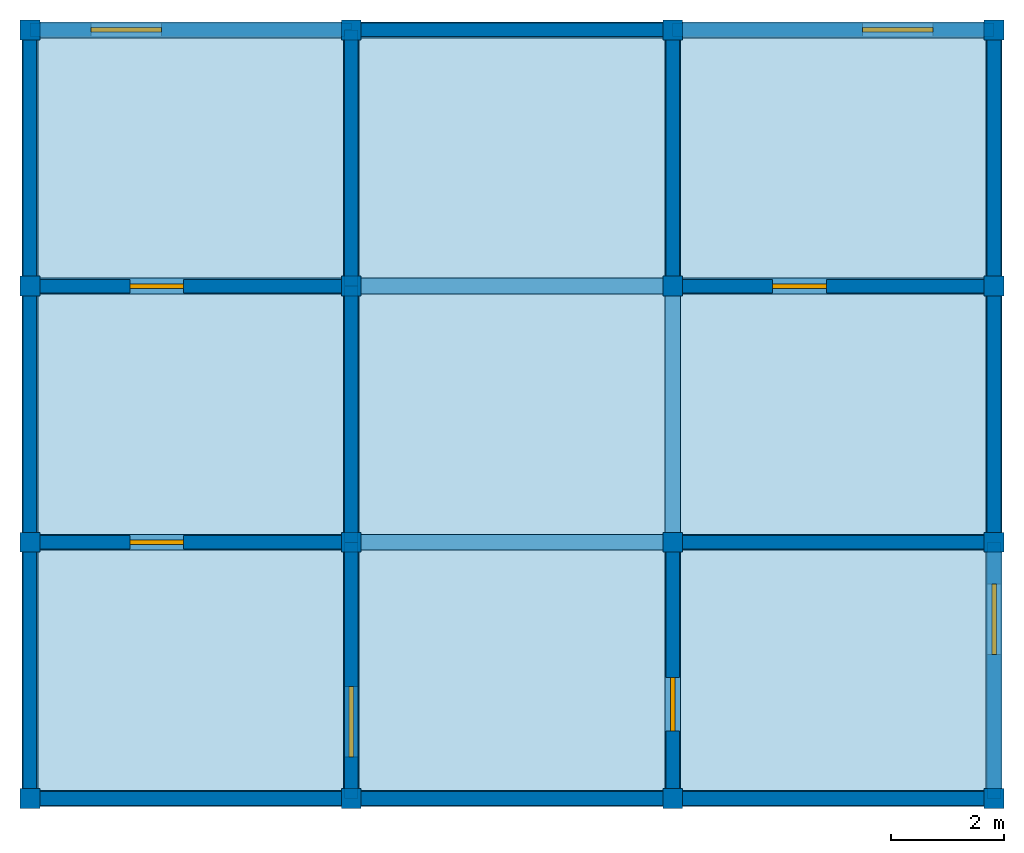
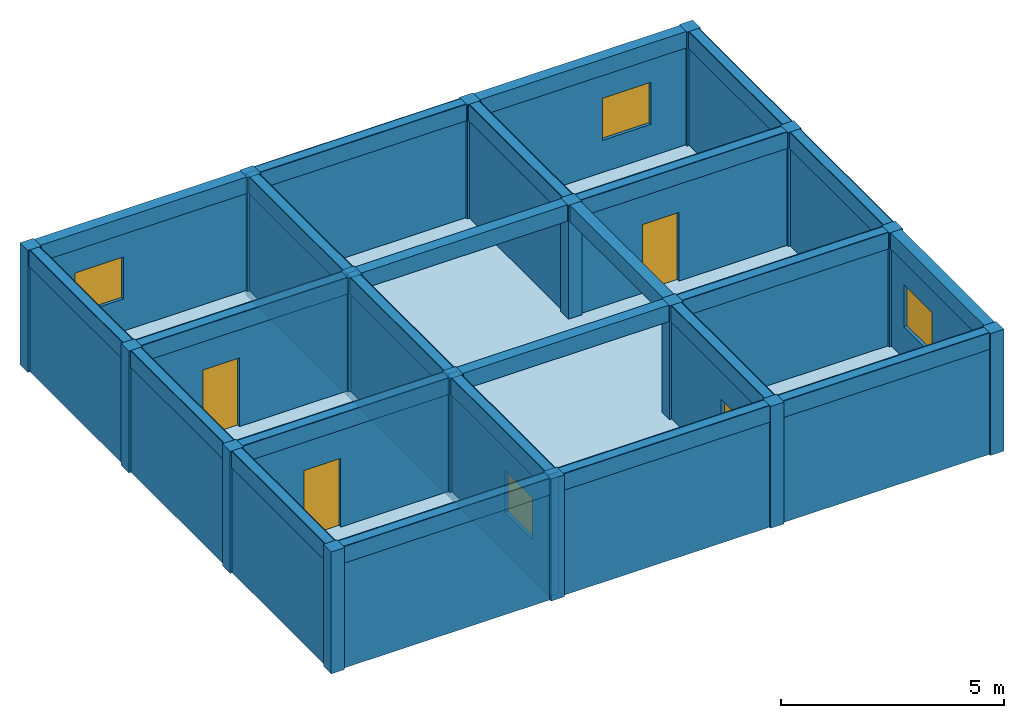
# One storey: 24 beams, 24 walls, 16 columns, 4 doors, 4 windows, 1 slab, 8 openings.
"""IFC4X3 building model written with IfcOpenShell, lengths in metres."""

import ifcopenshell
import ifcopenshell.guid

model = None  # the IFC model being written
_history = None  # IfcOwnerHistory: only IFC2X3 demands one
_inside = {}  # id of a spatial element -> (the spatial element, [elements in it])
_under = {}  # id of a project, library or spatial element -> (it, [spatial elements below it])
_declared = {}  # id of a project -> (the project, [libraries it declares])
_typed = {}  # id of a type object -> (the type object, [elements of that type])
_made_of = {}  # id of a material, layer set ... -> (it, [elements and type objects made of it])


def new_model(schema):
    """Start an empty IFC model of exactly this schema.

    Asked for "IFC4X3", IfcOpenShell would pick the latest addendum, in which some entities
    have other attributes; the version numbers below select the first issue.
    IFC2X3 requires an IfcOwnerHistory on every rooted entity: one is made here for all.
    """
    global model, _history
    if schema == "IFC4X3":
        model = ifcopenshell.file(schema_version=(4, 3, 0, 0))
    else:
        model = ifcopenshell.file(schema=schema)
    _inside.clear()
    _under.clear()
    _declared.clear()
    _typed.clear()
    _made_of.clear()
    _history = None
    if model.schema == "IFC2X3":
        org = make("IfcOrganization", Name="unknown")
        user = make(
            "IfcPersonAndOrganization",
            ThePerson=make("IfcPerson", FamilyName="unknown"),
            TheOrganization=org,
        )
        app = make(
            "IfcApplication",
            ApplicationDeveloper=org,
            Version="unknown",
            ApplicationFullName="unknown",
            ApplicationIdentifier="unknown",
        )
        _history = make(
            "IfcOwnerHistory",
            OwningUser=user,
            OwningApplication=app,
            ChangeAction="ADDED",
            CreationDate=0,
        )
    return model


def make(cls, **values):
    """One entity of the class cls with the attributes given. An attribute that is None is left unset."""
    return model.create_entity(
        cls, **{name: value for name, value in values.items() if value is not None}
    )


def rooted(cls, **values):
    """An entity with a GlobalId (a new one), such as an element, a storey or a relation."""
    return make(cls, GlobalId=ifcopenshell.guid.new(), OwnerHistory=_history, **values)


def si_unit(unit_type, name, prefix=None):
    """IfcSIUnit, for example si_unit("LENGTHUNIT", "METRE", prefix="MILLI")."""
    return make("IfcSIUnit", UnitType=unit_type, Prefix=prefix, Name=name)


def assignment(units):
    """IfcUnitAssignment: the units of a project."""
    return None if units is None else make("IfcUnitAssignment", Units=units)


def point(xyz):
    """IfcCartesianPoint."""
    return None if xyz is None else make("IfcCartesianPoint", Coordinates=xyz)


def direction(xyz):
    """IfcDirection."""
    return None if xyz is None else make("IfcDirection", DirectionRatios=xyz)


def frame(location, z_axis=None, x_axis=None):
    """IfcAxis2Placement3D, a coordinate frame: its origin and axes. An axis left out is left unset."""
    return make(
        "IfcAxis2Placement3D",
        Location=point(location),
        Axis=direction(z_axis),
        RefDirection=direction(x_axis),
    )


def frame_2d(location, x_axis=None):
    """IfcAxis2Placement2D, a coordinate frame in the plane: its origin and x axis."""
    return make(
        "IfcAxis2Placement2D", Location=point(location), RefDirection=direction(x_axis)
    )


def origin_with_axes():
    """The frame at (0, 0, 0) with the z axis (0, 0, 1) and the x axis (1, 0, 0) written out."""
    return frame((0.0, 0.0, 0.0), z_axis=(0.0, 0.0, 1.0), x_axis=(1.0, 0.0, 0.0))


def origin_2d():
    """The frame at (0, 0) in the plane with its x axis left unset."""
    return frame_2d((0.0, 0.0))


def place(relative_to, where):
    """IfcLocalPlacement: puts the frame where relative to a parent placement (None: the world)."""
    return make(
        "IfcLocalPlacement", PlacementRelTo=relative_to, RelativePlacement=where
    )


def context(
    kind, dimensions, precision=None, world=None, true_north=None, identifier=None
):
    """IfcGeometricRepresentationContext, for example the 3D "Model" context."""
    return make(
        "IfcGeometricRepresentationContext",
        ContextIdentifier=identifier,
        ContextType=kind,
        CoordinateSpaceDimension=dimensions,
        Precision=precision,
        WorldCoordinateSystem=world,
        TrueNorth=true_north,
    )


def project(units=None, contexts=None):
    """IfcProject with its units and contexts."""
    return rooted(
        "IfcProject",
        Name="project",
        RepresentationContexts=contexts,
        UnitsInContext=assignment(units),
    )


def spatial(cls, under=None, at=None, **own):
    """A site, building, storey or space (cls), placed at a placement, below another one or the project."""
    s = rooted(cls, ObjectPlacement=at, **own)
    if under is not None:
        _under.setdefault(under.id(), (under, []))[1].append(s)
    return s


def profile(cls, at=None, kind="AREA", **sizes):
    """A parametric profile (cls). Its sizes go by their IFC names, for example OverallWidth=200.0."""
    return make(cls, ProfileType=kind, Position=at, **sizes)


def rectangle(**sizes):
    """IfcRectangleProfileDef."""
    return profile("IfcRectangleProfileDef", **sizes)


def extrude(swept, where, along, depth):
    """IfcExtrudedAreaSolid: the profile swept, set in the frame where, extruded along a direction by depth."""
    return make(
        "IfcExtrudedAreaSolid",
        SweptArea=swept,
        Position=where,
        ExtrudedDirection=direction(along),
        Depth=depth,
    )


def shape(context_of_items, identifier, shape_type, items):
    """IfcShapeRepresentation: the items that make up one representation, for example the "Body"."""
    return make(
        "IfcShapeRepresentation",
        ContextOfItems=context_of_items,
        RepresentationIdentifier=identifier,
        RepresentationType=shape_type,
        Items=items,
    )


def material(Name=None, Category=None):
    """IfcMaterial."""
    return make("IfcMaterial", Name=Name, Category=Category)


def made_of(thing, what):
    """Note that an element or type object is made of a material, layer set ...; save() writes the relation."""
    if what is not None:
        _made_of.setdefault(what.id(), (what, []))[1].append(thing)
    return thing


def element(
    cls,
    number,
    at=None,
    inside=None,
    cuts=None,
    type_object=None,
    material=None,
    context=None,
    identifier="Body",
    shape_type=None,
    held_by="IfcProductDefinitionShape",
    body=None,
    shapes=None,
    **own,
):
    """One element of the class cls, such as IfcWall. Its Tag is "e" and its number.

    at: its placement. inside: the storey or other place that contains it. cuts: it is an
    opening in that element (IfcRelVoidsElement). A single representation is given by context,
    identifier, shape_type and body (its items); several are given by shapes. held_by: the class
    of the entity that holds the representations. save() writes the other relations.
    """
    e = rooted(cls, Tag="e%d" % number, ObjectPlacement=at, **own)
    if body is not None:
        shapes = [shape(context, identifier, shape_type, body)]
    if shapes is not None:
        e.Representation = make(held_by, Representations=shapes)
    if inside is not None:
        _inside.setdefault(inside.id(), (inside, []))[1].append(e)
    if cuts is not None:
        rooted(
            "IfcRelVoidsElement", RelatingBuildingElement=cuts, RelatedOpeningElement=e
        )
    if type_object is not None:
        _typed.setdefault(type_object.id(), (type_object, []))[1].append(e)
    return made_of(e, material)


def fill(opening, filler):
    """IfcRelFillsElement: the door or window that sits in an opening."""
    return rooted(
        "IfcRelFillsElement",
        RelatingOpeningElement=opening,
        RelatedBuildingElement=filler,
    )


def aggregate(whole, parts):
    """IfcRelAggregates: a whole, such as a stair, and the parts it consists of."""
    return rooted("IfcRelAggregates", RelatingObject=whole, RelatedObjects=parts)


def save(model, path):
    """Write the relations noted so far, then the file.

    IfcRelAggregates (storeys below a building ...), IfcRelContainedInSpatialStructure (elements
    in a storey), IfcRelDefinesByType, IfcRelAssociatesMaterial and IfcRelDeclares: one each for
    every whole, place, type object, material and project.
    """
    for whole, parts in _under.values():
        aggregate(whole, parts)
    for where, things in _inside.values():
        rooted(
            "IfcRelContainedInSpatialStructure",
            RelatedElements=things,
            RelatingStructure=where,
        )
    for kind, things in _typed.values():
        rooted("IfcRelDefinesByType", RelatedObjects=things, RelatingType=kind)
    for what, things in _made_of.values():
        rooted("IfcRelAssociatesMaterial", RelatedObjects=things, RelatingMaterial=what)
    for by, libraries in _declared.values():
        rooted("IfcRelDeclares", RelatingContext=by, RelatedDefinitions=libraries)
    model.write(path)


model = new_model("IFC4X3")

# Units and contexts
model_context = context("Model", 3, precision=1e-05, world=origin_with_axes())
ifc_project = project(units=[si_unit("LENGTHUNIT", "METRE"), si_unit("AREAUNIT", "SQUARE_METRE"), si_unit("VOLUMEUNIT", "CUBIC_METRE")], contexts=[model_context])

# Site, building, storey
site = spatial("IfcSite", under=ifc_project, Name="Valdivia Parcel", CompositionType="ELEMENT")
building = spatial("IfcBuilding", under=site, Name="Strata Block", CompositionType="ELEMENT")
storey = spatial("IfcBuildingStorey", under=building, Name="Level 6", CompositionType="ELEMENT", Elevation=16.68)

# Columns
ifc_material_1 = material(Name="Concrete")
for number, where, z_axis, x_axis, name in (
    (1, (-8.525, -6.795, 16.677), (0.0, 0.0, 1.0), (1.0, 0.0, 0.0), "Column 6.1"),
    (2, (-8.525, -2.265, 16.677), (0.0, 0.0, 1.0), (1.0, 0.0, 0.0), "Column 6.2"),
):
    element("IfcColumn", number, at=place(None, frame(where, z_axis=z_axis, x_axis=x_axis)), inside=storey, material=ifc_material_1, Name=name, ObjectType="Structural Column", PredefinedType="PILASTER", context=model_context, shape_type="SweptSolid", body=[
        extrude(rectangle(XDim=0.35, YDim=0.35, at=origin_2d()), origin_with_axes(), (0.0, 0.0, 1.0), 3.335),
    ])
column_1_placement = place(None, frame((-8.525, 2.265, 16.677), z_axis=(0.0, 0.0, 1.0), x_axis=(1.0, 0.0, 0.0)))
element("IfcColumn", 3, at=column_1_placement, inside=storey, material=ifc_material_1, Name="Column 6.3", ObjectType="Corner Column", PredefinedType="NOTDEFINED", context=model_context, shape_type="SweptSolid", body=[
    extrude(rectangle(XDim=0.35, YDim=0.35, at=origin_2d()), origin_with_axes(), (0.0, 0.0, 1.0), 3.335),
])
column_2_placement = place(None, frame((-8.525, 6.795, 16.677), z_axis=(0.0, 0.0, 1.0), x_axis=(1.0, 0.0, 0.0)))
element("IfcColumn", 4, at=column_2_placement, inside=storey, material=ifc_material_1, Name="Column 6.4", ObjectType="Core Column", PredefinedType="COLUMN", context=model_context, shape_type="SweptSolid", body=[
    extrude(rectangle(XDim=0.35, YDim=0.35, at=origin_2d()), origin_with_axes(), (0.0, 0.0, 1.0), 3.335),
])
column_3_placement = place(None, frame((-2.842, -6.795, 16.677), z_axis=(0.0, 0.0, 1.0), x_axis=(1.0, 0.0, 0.0)))
element("IfcColumn", 5, at=column_3_placement, inside=storey, material=ifc_material_1, Name="Column 6.5", ObjectType="Facade Column", PredefinedType="PILASTER", context=model_context, shape_type="SweptSolid", body=[
    extrude(rectangle(XDim=0.35, YDim=0.35, at=origin_2d()), origin_with_axes(), (0.0, 0.0, 1.0), 3.335),
])
column_4_placement = place(None, frame((-2.842, -2.265, 16.677), z_axis=(0.0, 0.0, 1.0), x_axis=(1.0, 0.0, 0.0)))
element("IfcColumn", 6, at=column_4_placement, inside=storey, material=ifc_material_1, Name="Column 6.6", ObjectType="Structural Column", PredefinedType="PILASTER", context=model_context, shape_type="SweptSolid", body=[
    extrude(rectangle(XDim=0.35, YDim=0.35, at=origin_2d()), origin_with_axes(), (0.0, 0.0, 1.0), 3.335),
])
column_5_placement = place(None, frame((-2.842, 2.265, 16.677), z_axis=(0.0, 0.0, 1.0), x_axis=(1.0, 0.0, 0.0)))
element("IfcColumn", 7, at=column_5_placement, inside=storey, material=ifc_material_1, Name="Column 6.7", ObjectType="Facade Column", PredefinedType="NOTDEFINED", context=model_context, shape_type="SweptSolid", body=[
    extrude(rectangle(XDim=0.35, YDim=0.35, at=origin_2d()), origin_with_axes(), (0.0, 0.0, 1.0), 3.335),
])
column_6_placement = place(None, frame((-2.842, 6.795, 16.677), z_axis=(0.0, 0.0, 1.0), x_axis=(1.0, 0.0, 0.0)))
element("IfcColumn", 8, at=column_6_placement, inside=storey, material=ifc_material_1, Name="Column 6.8", ObjectType="Core Column", PredefinedType="PILASTER", context=model_context, shape_type="SweptSolid", body=[
    extrude(rectangle(XDim=0.35, YDim=0.35, at=origin_2d()), origin_with_axes(), (0.0, 0.0, 1.0), 3.335),
])
column_7_placement = place(None, frame((2.841, -6.795, 16.677), z_axis=(0.0, 0.0, 1.0), x_axis=(1.0, 0.0, 0.0)))
element("IfcColumn", 9, at=column_7_placement, inside=storey, material=ifc_material_1, Name="Column 6.9", ObjectType="Structural Column", PredefinedType="PILASTER", context=model_context, shape_type="SweptSolid", body=[
    extrude(rectangle(XDim=0.35, YDim=0.35, at=origin_2d()), origin_with_axes(), (0.0, 0.0, 1.0), 3.335),
])
column_8_placement = place(None, frame((2.841, -2.265, 16.677), z_axis=(0.0, 0.0, 1.0), x_axis=(1.0, 0.0, 0.0)))
element("IfcColumn", 10, at=column_8_placement, inside=storey, material=ifc_material_1, Name="Column 6.10", ObjectType="Structural Column", PredefinedType="NOTDEFINED", context=model_context, shape_type="SweptSolid", body=[
    extrude(rectangle(XDim=0.35, YDim=0.35, at=origin_2d()), origin_with_axes(), (0.0, 0.0, 1.0), 3.335),
])
column_9_placement = place(None, frame((2.841, 2.265, 16.677), z_axis=(0.0, 0.0, 1.0), x_axis=(1.0, 0.0, 0.0)))
element("IfcColumn", 11, at=column_9_placement, inside=storey, material=ifc_material_1, Name="Column 6.11", ObjectType="Core Column", PredefinedType="PILASTER", context=model_context, shape_type="SweptSolid", body=[
    extrude(rectangle(XDim=0.35, YDim=0.35, at=origin_2d()), origin_with_axes(), (0.0, 0.0, 1.0), 3.335),
])
column_10_placement = place(None, frame((2.841, 6.795, 16.677), z_axis=(0.0, 0.0, 1.0), x_axis=(1.0, 0.0, 0.0)))
element("IfcColumn", 12, at=column_10_placement, inside=storey, material=ifc_material_1, Name="Column 6.12", ObjectType="Structural Column", PredefinedType="USERDEFINED", context=model_context, shape_type="SweptSolid", body=[
    extrude(rectangle(XDim=0.35, YDim=0.35, at=origin_2d()), origin_with_axes(), (0.0, 0.0, 1.0), 3.335),
])
column_11_placement = place(None, frame((8.524, -6.795, 16.677), z_axis=(0.0, 0.0, 1.0), x_axis=(1.0, 0.0, 0.0)))
element("IfcColumn", 13, at=column_11_placement, inside=storey, material=ifc_material_1, Name="Column 6.13", ObjectType="Core Column", PredefinedType="PILASTER", context=model_context, shape_type="SweptSolid", body=[
    extrude(rectangle(XDim=0.35, YDim=0.35, at=origin_2d()), origin_with_axes(), (0.0, 0.0, 1.0), 3.335),
])
column_12_placement = place(None, frame((8.524, -2.265, 16.677), z_axis=(0.0, 0.0, 1.0), x_axis=(1.0, 0.0, 0.0)))
element("IfcColumn", 14, at=column_12_placement, inside=storey, material=ifc_material_1, Name="Column 6.14", ObjectType="Corner Column", PredefinedType="USERDEFINED", context=model_context, shape_type="SweptSolid", body=[
    extrude(rectangle(XDim=0.35, YDim=0.35, at=origin_2d()), origin_with_axes(), (0.0, 0.0, 1.0), 3.335),
])
column_13_placement = place(None, frame((8.524, 2.265, 16.677), z_axis=(0.0, 0.0, 1.0), x_axis=(1.0, 0.0, 0.0)))
element("IfcColumn", 15, at=column_13_placement, inside=storey, material=ifc_material_1, Name="Column 6.15", ObjectType="Facade Column", PredefinedType="PILASTER", context=model_context, shape_type="SweptSolid", body=[
    extrude(rectangle(XDim=0.35, YDim=0.35, at=origin_2d()), origin_with_axes(), (0.0, 0.0, 1.0), 3.335),
])
column_14_placement = place(None, frame((8.524, 6.795, 16.677), z_axis=(0.0, 0.0, 1.0), x_axis=(1.0, 0.0, 0.0)))
element("IfcColumn", 16, at=column_14_placement, inside=storey, material=ifc_material_1, Name="Column 6.16", ObjectType="Structural Column", PredefinedType="PILASTER", context=model_context, shape_type="SweptSolid", body=[
    extrude(rectangle(XDim=0.35, YDim=0.35, at=origin_2d()), origin_with_axes(), (0.0, 0.0, 1.0), 3.335),
])

# Beams
ifc_material_2 = material(Name="Timber")
beam_1_placement = place(None, frame((-5.684, -6.795, 19.562), z_axis=(0.0, 0.0, 1.0), x_axis=(1.0, 0.0, 0.0)))
element("IfcBeam", 17, at=beam_1_placement, inside=storey, material=ifc_material_2, Name="Beam 6.1", ObjectType="Secondary Beam", PredefinedType="JOIST", context=model_context, shape_type="SweptSolid", body=[
    extrude(rectangle(XDim=5.683, YDim=0.28, at=origin_2d()), origin_with_axes(), (0.0, 0.0, 1.0), 0.45),
])
beam_2_placement = place(None, frame((0.0, -6.795, 19.562), z_axis=(0.0, 0.0, 1.0), x_axis=(1.0, 0.0, 0.0)))
element("IfcBeam", 18, at=beam_2_placement, inside=storey, material=ifc_material_2, Name="Beam 6.2", ObjectType="Rafter Beam", PredefinedType="T_BEAM", context=model_context, shape_type="SweptSolid", body=[
    extrude(rectangle(XDim=5.683, YDim=0.28, at=origin_2d()), origin_with_axes(), (0.0, 0.0, 1.0), 0.45),
])
beam_3_placement = place(None, frame((5.682, -6.795, 19.562), z_axis=(0.0, 0.0, 1.0), x_axis=(1.0, 0.0, 0.0)))
element("IfcBeam", 19, at=beam_3_placement, inside=storey, material=ifc_material_2, Name="Beam 6.3", ObjectType="Primary Beam", PredefinedType="T_BEAM", context=model_context, shape_type="SweptSolid", body=[
    extrude(rectangle(XDim=5.683, YDim=0.28, at=origin_2d()), origin_with_axes(), (0.0, 0.0, 1.0), 0.45),
])
beam_4_placement = place(None, frame((-5.684, -2.265, 19.562), z_axis=(0.0, 0.0, 1.0), x_axis=(1.0, 0.0, 0.0)))
element("IfcBeam", 20, at=beam_4_placement, inside=storey, material=ifc_material_2, Name="Beam 6.4", ObjectType="Ridge Beam", PredefinedType="T_BEAM", context=model_context, shape_type="SweptSolid", body=[
    extrude(rectangle(XDim=5.683, YDim=0.28, at=origin_2d()), origin_with_axes(), (0.0, 0.0, 1.0), 0.45),
])
beam_5_placement = place(None, frame((0.0, -2.265, 19.562), z_axis=(0.0, 0.0, 1.0), x_axis=(1.0, 0.0, 0.0)))
element("IfcBeam", 21, at=beam_5_placement, inside=storey, material=ifc_material_2, Name="Beam 6.5", ObjectType="Secondary Beam", PredefinedType="BEAM", context=model_context, shape_type="SweptSolid", body=[
    extrude(rectangle(XDim=5.683, YDim=0.28, at=origin_2d()), origin_with_axes(), (0.0, 0.0, 1.0), 0.45),
])
beam_6_placement = place(None, frame((5.682, -2.265, 19.562), z_axis=(0.0, 0.0, 1.0), x_axis=(1.0, 0.0, 0.0)))
element("IfcBeam", 22, at=beam_6_placement, inside=storey, material=ifc_material_2, Name="Beam 6.6", ObjectType="Ridge Beam", PredefinedType="T_BEAM", context=model_context, shape_type="SweptSolid", body=[
    extrude(rectangle(XDim=5.683, YDim=0.28, at=origin_2d()), origin_with_axes(), (0.0, 0.0, 1.0), 0.45),
])
beam_7_placement = place(None, frame((-5.684, 2.265, 19.562), z_axis=(0.0, 0.0, 1.0), x_axis=(1.0, 0.0, 0.0)))
element("IfcBeam", 23, at=beam_7_placement, inside=storey, material=ifc_material_2, Name="Beam 6.7", ObjectType="Secondary Beam", PredefinedType="HOLLOWCORE", context=model_context, shape_type="SweptSolid", body=[
    extrude(rectangle(XDim=5.683, YDim=0.28, at=origin_2d()), origin_with_axes(), (0.0, 0.0, 1.0), 0.45),
])
beam_8_placement = place(None, frame((0.0, 2.265, 19.562), z_axis=(0.0, 0.0, 1.0), x_axis=(1.0, 0.0, 0.0)))
element("IfcBeam", 24, at=beam_8_placement, inside=storey, material=ifc_material_2, Name="Beam 6.8", ObjectType="Ridge Beam", PredefinedType="HOLLOWCORE", context=model_context, shape_type="SweptSolid", body=[
    extrude(rectangle(XDim=5.683, YDim=0.28, at=origin_2d()), origin_with_axes(), (0.0, 0.0, 1.0), 0.45),
])
beam_9_placement = place(None, frame((5.682, 2.265, 19.562), z_axis=(0.0, 0.0, 1.0), x_axis=(1.0, 0.0, 0.0)))
element("IfcBeam", 25, at=beam_9_placement, inside=storey, material=ifc_material_2, Name="Beam 6.9", ObjectType="Secondary Beam", PredefinedType="USERDEFINED", context=model_context, shape_type="SweptSolid", body=[
    extrude(rectangle(XDim=5.683, YDim=0.28, at=origin_2d()), origin_with_axes(), (0.0, 0.0, 1.0), 0.45),
])
beam_10_placement = place(None, frame((-5.684, 6.795, 19.562), z_axis=(0.0, 0.0, 1.0), x_axis=(1.0, 0.0, 0.0)))
element("IfcBeam", 26, at=beam_10_placement, inside=storey, material=ifc_material_2, Name="Beam 6.10", ObjectType="Primary Beam", PredefinedType="NOTDEFINED", context=model_context, shape_type="SweptSolid", body=[
    extrude(rectangle(XDim=5.683, YDim=0.28, at=origin_2d()), origin_with_axes(), (0.0, 0.0, 1.0), 0.45),
])
beam_11_placement = place(None, frame((0.0, 6.795, 19.562), z_axis=(0.0, 0.0, 1.0), x_axis=(1.0, 0.0, 0.0)))
element("IfcBeam", 27, at=beam_11_placement, inside=storey, material=ifc_material_2, Name="Beam 6.11", ObjectType="Transfer Beam", PredefinedType="USERDEFINED", context=model_context, shape_type="SweptSolid", body=[
    extrude(rectangle(XDim=5.683, YDim=0.28, at=origin_2d()), origin_with_axes(), (0.0, 0.0, 1.0), 0.45),
])
beam_12_placement = place(None, frame((5.682, 6.795, 19.562), z_axis=(0.0, 0.0, 1.0), x_axis=(1.0, 0.0, 0.0)))
element("IfcBeam", 28, at=beam_12_placement, inside=storey, material=ifc_material_2, Name="Beam 6.12", ObjectType="Rafter Beam", PredefinedType="SPANDREL", context=model_context, shape_type="SweptSolid", body=[
    extrude(rectangle(XDim=5.683, YDim=0.28, at=origin_2d()), origin_with_axes(), (0.0, 0.0, 1.0), 0.45),
])
beam_13_placement = place(None, frame((-8.525, -4.53, 19.562), z_axis=(0.0, 0.0, 1.0), x_axis=(0.0, 1.0, 0.0)))
element("IfcBeam", 29, at=beam_13_placement, inside=storey, material=ifc_material_2, Name="Beam 6.13", ObjectType="Secondary Beam", PredefinedType="JOIST", context=model_context, shape_type="SweptSolid", body=[
    extrude(rectangle(XDim=4.53, YDim=0.28, at=origin_2d()), origin_with_axes(), (0.0, 0.0, 1.0), 0.45),
])
beam_14_placement = place(None, frame((-8.525, 0.0, 19.562), z_axis=(0.0, 0.0, 1.0), x_axis=(0.0, 1.0, 0.0)))
element("IfcBeam", 30, at=beam_14_placement, inside=storey, material=ifc_material_2, Name="Beam 6.14", ObjectType="Secondary Beam", PredefinedType="SPANDREL", context=model_context, shape_type="SweptSolid", body=[
    extrude(rectangle(XDim=4.53, YDim=0.28, at=origin_2d()), origin_with_axes(), (0.0, 0.0, 1.0), 0.45),
])
beam_15_placement = place(None, frame((-8.525, 4.53, 19.562), z_axis=(0.0, 0.0, 1.0), x_axis=(0.0, 1.0, 0.0)))
element("IfcBeam", 31, at=beam_15_placement, inside=storey, material=ifc_material_2, Name="Beam 6.15", ObjectType="Primary Beam", PredefinedType="JOIST", context=model_context, shape_type="SweptSolid", body=[
    extrude(rectangle(XDim=4.53, YDim=0.28, at=origin_2d()), origin_with_axes(), (0.0, 0.0, 1.0), 0.45),
])
beam_16_placement = place(None, frame((-2.842, -4.53, 19.562), z_axis=(0.0, 0.0, 1.0), x_axis=(0.0, 1.0, 0.0)))
element("IfcBeam", 32, at=beam_16_placement, inside=storey, material=ifc_material_2, Name="Beam 6.16", ObjectType="Transfer Beam", PredefinedType="HOLLOWCORE", context=model_context, shape_type="SweptSolid", body=[
    extrude(rectangle(XDim=4.53, YDim=0.28, at=origin_2d()), origin_with_axes(), (0.0, 0.0, 1.0), 0.45),
])
beam_17_placement = place(None, frame((-2.842, 0.0, 19.562), z_axis=(0.0, 0.0, 1.0), x_axis=(0.0, 1.0, 0.0)))
element("IfcBeam", 33, at=beam_17_placement, inside=storey, material=ifc_material_2, Name="Beam 6.17", ObjectType="Primary Beam", PredefinedType="BEAM", context=model_context, shape_type="SweptSolid", body=[
    extrude(rectangle(XDim=4.53, YDim=0.28, at=origin_2d()), origin_with_axes(), (0.0, 0.0, 1.0), 0.45),
])
beam_18_placement = place(None, frame((-2.842, 4.53, 19.562), z_axis=(0.0, 0.0, 1.0), x_axis=(0.0, 1.0, 0.0)))
element("IfcBeam", 34, at=beam_18_placement, inside=storey, material=ifc_material_2, Name="Beam 6.18", ObjectType="Secondary Beam", PredefinedType="LINTEL", context=model_context, shape_type="SweptSolid", body=[
    extrude(rectangle(XDim=4.53, YDim=0.28, at=origin_2d()), origin_with_axes(), (0.0, 0.0, 1.0), 0.45),
])
beam_19_placement = place(None, frame((2.841, -4.53, 19.562), z_axis=(0.0, 0.0, 1.0), x_axis=(0.0, 1.0, 0.0)))
element("IfcBeam", 35, at=beam_19_placement, inside=storey, material=ifc_material_2, Name="Beam 6.19", ObjectType="Secondary Beam", PredefinedType="SPANDREL", context=model_context, shape_type="SweptSolid", body=[
    extrude(rectangle(XDim=4.53, YDim=0.28, at=origin_2d()), origin_with_axes(), (0.0, 0.0, 1.0), 0.45),
])
beam_20_placement = place(None, frame((2.841, 0.0, 19.562), z_axis=(0.0, 0.0, 1.0), x_axis=(0.0, 1.0, 0.0)))
element("IfcBeam", 36, at=beam_20_placement, inside=storey, material=ifc_material_2, Name="Beam 6.20", ObjectType="Transfer Beam", PredefinedType="JOIST", context=model_context, shape_type="SweptSolid", body=[
    extrude(rectangle(XDim=4.53, YDim=0.28, at=origin_2d()), origin_with_axes(), (0.0, 0.0, 1.0), 0.45),
])
beam_21_placement = place(None, frame((2.841, 4.53, 19.562), z_axis=(0.0, 0.0, 1.0), x_axis=(0.0, 1.0, 0.0)))
element("IfcBeam", 37, at=beam_21_placement, inside=storey, material=ifc_material_2, Name="Beam 6.21", ObjectType="Ridge Beam", PredefinedType="HOLLOWCORE", context=model_context, shape_type="SweptSolid", body=[
    extrude(rectangle(XDim=4.53, YDim=0.28, at=origin_2d()), origin_with_axes(), (0.0, 0.0, 1.0), 0.45),
])
beam_22_placement = place(None, frame((8.524, -4.53, 19.562), z_axis=(0.0, 0.0, 1.0), x_axis=(0.0, 1.0, 0.0)))
element("IfcBeam", 38, at=beam_22_placement, inside=storey, material=ifc_material_2, Name="Beam 6.22", ObjectType="Primary Beam", PredefinedType="HOLLOWCORE", context=model_context, shape_type="SweptSolid", body=[
    extrude(rectangle(XDim=4.53, YDim=0.28, at=origin_2d()), origin_with_axes(), (0.0, 0.0, 1.0), 0.45),
])
beam_23_placement = place(None, frame((8.524, 0.0, 19.562), z_axis=(0.0, 0.0, 1.0), x_axis=(0.0, 1.0, 0.0)))
element("IfcBeam", 39, at=beam_23_placement, inside=storey, material=ifc_material_2, Name="Beam 6.23", ObjectType="Secondary Beam", PredefinedType="SPANDREL", context=model_context, shape_type="SweptSolid", body=[
    extrude(rectangle(XDim=4.53, YDim=0.28, at=origin_2d()), origin_with_axes(), (0.0, 0.0, 1.0), 0.45),
])
beam_24_placement = place(None, frame((8.524, 4.53, 19.562), z_axis=(0.0, 0.0, 1.0), x_axis=(0.0, 1.0, 0.0)))
element("IfcBeam", 40, at=beam_24_placement, inside=storey, material=ifc_material_2, Name="Beam 6.24", ObjectType="Primary Beam", PredefinedType="NOTDEFINED", context=model_context, shape_type="SweptSolid", body=[
    extrude(rectangle(XDim=4.53, YDim=0.28, at=origin_2d()), origin_with_axes(), (0.0, 0.0, 1.0), 0.45),
])

# Slab
ifc_material_3 = material(Name="Composite")
slab_placement = place(None, frame((0.0, 0.0, 16.68), z_axis=(0.0, 0.0, 1.0), x_axis=(1.0, 0.0, 0.0)))
element("IfcSlab", 41, at=slab_placement, inside=storey, material=ifc_material_3, Name="Slab 6", ObjectType="Floor Slab", PredefinedType="FLOOR", context=model_context, shape_type="SweptSolid", body=[
    extrude(rectangle(XDim=17.05, YDim=13.59, at=origin_2d()), origin_with_axes(), (0.0, 0.0, 1.0), 0.22),
])

# Wall, opening, door
wall_1_placement = place(None, frame((-5.684, -2.265, 16.677), z_axis=(0.0, 0.0, 1.0), x_axis=(1.0, 0.0, 0.0)))
wall_1 = element("IfcWall", 42, at=wall_1_placement, inside=storey, material=ifc_material_1, Name="Wall 6.1", ObjectType="Corridor Partition", PredefinedType="MOVABLE", context=model_context, shape_type="SweptSolid", body=[
    extrude(rectangle(XDim=5.683, YDim=0.241539, at=origin_2d()), origin_with_axes(), (0.0, 0.0, 1.0), 3.335),
])
opening_1_placement = place(None, frame((-6.284, -2.265, 16.677), z_axis=(0.0, 0.0, 1.0), x_axis=(1.0, 0.0, 0.0)))
opening_1 = element("IfcOpeningElement", 43, at=opening_1_placement, cuts=wall_1, Name="Door opening 6.1", ObjectType="Door Opening", PredefinedType="OPENING", context=model_context, shape_type="SweptSolid", body=[
    extrude(rectangle(XDim=0.95, YDim=0.321539, at=origin_2d()), origin_with_axes(), (0.0, 0.0, 1.0), 2.1),
])
door_1_placement = place(None, frame((-6.284, -2.265, 16.677), z_axis=(0.0, 0.0, 1.0), x_axis=(1.0, 0.0, 0.0)))
door_1 = element("IfcDoor", 44, at=door_1_placement, inside=storey, Name="Door 6.1", ObjectType="Fire Door", OverallHeight=2.1, OverallWidth=0.95, context=model_context, shape_type="SweptSolid", body=[
    extrude(rectangle(XDim=0.95, YDim=0.08, at=origin_2d()), origin_with_axes(), (0.0, 0.0, 1.0), 2.1),
])
fill(opening_1, door_1)

# Wall, opening, window
ifc_material_4 = material(Name="Brick")
wall_2_placement = place(None, frame((-2.8425, -4.53, 16.677), z_axis=(0.0, 0.0, 1.0), x_axis=(0.0, 1.0, 0.0)))
wall_2 = element("IfcWall", 45, at=wall_2_placement, inside=storey, material=ifc_material_4, Name="Wall 6.2", ObjectType="Exterior Wall", PredefinedType="SOLIDWALL", context=model_context, shape_type="SweptSolid", body=[
    extrude(rectangle(XDim=4.53, YDim=0.241539, at=origin_2d()), origin_with_axes(), (0.0, 0.0, 1.0), 3.335),
])
opening_2_placement = place(None, frame((-2.843, -5.436, 17.777), z_axis=(0.0, 0.0, 1.0), x_axis=(0.0, 1.0, 0.0)))
opening_2 = element("IfcOpeningElement", 46, at=opening_2_placement, cuts=wall_2, Name="Window opening 6.2", ObjectType="Window Opening", PredefinedType="OPENING", context=model_context, shape_type="SweptSolid", body=[
    extrude(rectangle(XDim=1.25, YDim=0.321539, at=origin_2d()), origin_with_axes(), (0.0, 0.0, 1.0), 1.15),
])
window_1_placement = place(None, frame((-2.843, -5.436, 17.777), z_axis=(0.0, 0.0, 1.0), x_axis=(0.0, 1.0, 0.0)))
window_1 = element("IfcWindow", 47, at=window_1_placement, inside=storey, Name="Window 6.2", ObjectType="Louvre Window", OverallHeight=1.15, OverallWidth=1.25, context=model_context, shape_type="SweptSolid", body=[
    extrude(rectangle(XDim=1.25, YDim=0.08, at=origin_2d()), origin_with_axes(), (0.0, 0.0, 1.0), 1.15),
])
fill(opening_2, window_1)

# Walls
wall_3_placement = place(None, frame((-5.684, -6.795, 16.677), z_axis=(0.0, 0.0, 1.0), x_axis=(1.0, 0.0, 0.0)))
element("IfcWall", 48, at=wall_3_placement, inside=storey, material=ifc_material_4, Name="Wall 6.3", ObjectType="Exterior Wall", PredefinedType="MOVABLE", context=model_context, shape_type="SweptSolid", body=[
    extrude(rectangle(XDim=5.683, YDim=0.241539, at=origin_2d()), origin_with_axes(), (0.0, 0.0, 1.0), 3.335),
])
ifc_material_5 = material(Name="CLT")
wall_4_placement = place(None, frame((-8.5255, -4.53, 16.677), z_axis=(0.0, 0.0, 1.0), x_axis=(0.0, 1.0, 0.0)))
element("IfcWall", 49, at=wall_4_placement, inside=storey, material=ifc_material_5, Name="Wall 6.4", ObjectType="Exterior Wall", PredefinedType="PLUMBINGWALL", context=model_context, shape_type="SweptSolid", body=[
    extrude(rectangle(XDim=4.53, YDim=0.241539, at=origin_2d()), origin_with_axes(), (0.0, 0.0, 1.0), 3.335),
])

# Wall, opening, door
wall_5_placement = place(None, frame((2.8405, -4.53, 16.677), z_axis=(0.0, 0.0, 1.0), x_axis=(0.0, 1.0, 0.0)))
wall_5 = element("IfcWall", 50, at=wall_5_placement, inside=storey, material=ifc_material_4, Name="Wall 6.5", ObjectType="Corridor Partition", PredefinedType="ELEMENTEDWALL", context=model_context, shape_type="SweptSolid", body=[
    extrude(rectangle(XDim=4.53, YDim=0.241539, at=origin_2d()), origin_with_axes(), (0.0, 0.0, 1.0), 3.335),
])
opening_3_placement = place(None, frame((2.841, -5.13, 16.677), z_axis=(0.0, 0.0, 1.0), x_axis=(0.0, 1.0, 0.0)))
opening_3 = element("IfcOpeningElement", 51, at=opening_3_placement, cuts=wall_5, Name="Door opening 6.3", ObjectType="Door Opening", PredefinedType="OPENING", context=model_context, shape_type="SweptSolid", body=[
    extrude(rectangle(XDim=0.95, YDim=0.321539, at=origin_2d()), origin_with_axes(), (0.0, 0.0, 1.0), 2.1),
])
door_2_placement = place(None, frame((2.841, -5.13, 16.677), z_axis=(0.0, 0.0, 1.0), x_axis=(0.0, 1.0, 0.0)))
door_2 = element("IfcDoor", 52, at=door_2_placement, inside=storey, Name="Door 6.3", ObjectType="Entry Door", OverallHeight=2.1, OverallWidth=0.95, context=model_context, shape_type="SweptSolid", body=[
    extrude(rectangle(XDim=0.95, YDim=0.08, at=origin_2d()), origin_with_axes(), (0.0, 0.0, 1.0), 2.1),
])
fill(opening_3, door_2)

# Walls
wall_6_placement = place(None, frame((-0.001, -6.795, 16.677), z_axis=(0.0, 0.0, 1.0), x_axis=(1.0, 0.0, 0.0)))
element("IfcWall", 53, at=wall_6_placement, inside=storey, material=ifc_material_5, Name="Wall 6.6", ObjectType="Exterior Wall", PredefinedType="MOVABLE", context=model_context, shape_type="SweptSolid", body=[
    extrude(rectangle(XDim=5.683, YDim=0.241539, at=origin_2d()), origin_with_axes(), (0.0, 0.0, 1.0), 3.335),
])
wall_7_placement = place(None, frame((-2.8425, -4.53, 16.677), z_axis=(0.0, 0.0, 1.0), x_axis=(0.0, 1.0, 0.0)))
element("IfcWall", 54, at=wall_7_placement, inside=storey, material=ifc_material_4, Name="Wall 6.7", ObjectType="Exterior Wall", PredefinedType="MOVABLE", context=model_context, shape_type="SweptSolid", body=[
    extrude(rectangle(XDim=4.53, YDim=0.241539, at=origin_2d()), origin_with_axes(), (0.0, 0.0, 1.0), 3.335),
])
wall_8_placement = place(None, frame((5.682, -2.265, 16.677), z_axis=(0.0, 0.0, 1.0), x_axis=(1.0, 0.0, 0.0)))
element("IfcWall", 55, at=wall_8_placement, inside=storey, material=ifc_material_4, Name="Wall 6.8", ObjectType="Corridor Partition", PredefinedType="MOVABLE", context=model_context, shape_type="SweptSolid", body=[
    extrude(rectangle(XDim=5.683, YDim=0.241539, at=origin_2d()), origin_with_axes(), (0.0, 0.0, 1.0), 3.335),
])

# Wall, opening, window
wall_9_placement = place(None, frame((8.5235, -4.53, 16.677), z_axis=(0.0, 0.0, 1.0), x_axis=(0.0, 1.0, 0.0)))
wall_9 = element("IfcWall", 56, at=wall_9_placement, inside=storey, material=ifc_material_4, Name="Wall 6.9", ObjectType="Exterior Wall", PredefinedType="POLYGONAL", context=model_context, shape_type="SweptSolid", body=[
    extrude(rectangle(XDim=4.53, YDim=0.241539, at=origin_2d()), origin_with_axes(), (0.0, 0.0, 1.0), 3.335),
])
opening_4_placement = place(None, frame((8.524, -3.624, 17.777), z_axis=(0.0, 0.0, 1.0), x_axis=(0.0, 1.0, 0.0)))
opening_4 = element("IfcOpeningElement", 57, at=opening_4_placement, cuts=wall_9, Name="Window opening 6.4", ObjectType="Window Opening", PredefinedType="OPENING", context=model_context, shape_type="SweptSolid", body=[
    extrude(rectangle(XDim=1.25, YDim=0.321539, at=origin_2d()), origin_with_axes(), (0.0, 0.0, 1.0), 1.15),
])
window_2_placement = place(None, frame((8.524, -3.624, 17.777), z_axis=(0.0, 0.0, 1.0), x_axis=(0.0, 1.0, 0.0)))
window_2 = element("IfcWindow", 58, at=window_2_placement, inside=storey, Name="Window 6.4", ObjectType="Sliding Window", OverallHeight=1.15, OverallWidth=1.25, context=model_context, shape_type="SweptSolid", body=[
    extrude(rectangle(XDim=1.25, YDim=0.08, at=origin_2d()), origin_with_axes(), (0.0, 0.0, 1.0), 1.15),
])
fill(opening_4, window_2)

# Wall
wall_10_placement = place(None, frame((5.682, -6.795, 16.677), z_axis=(0.0, 0.0, 1.0), x_axis=(1.0, 0.0, 0.0)))
element("IfcWall", 59, at=wall_10_placement, inside=storey, material=ifc_material_5, Name="Wall 6.10", ObjectType="Exterior Wall", PredefinedType="SOLIDWALL", context=model_context, shape_type="SweptSolid", body=[
    extrude(rectangle(XDim=5.683, YDim=0.241539, at=origin_2d()), origin_with_axes(), (0.0, 0.0, 1.0), 3.335),
])

# Wall, opening, door
ifc_material_6 = material(Name="Gypsum")
wall_11_placement = place(None, frame((-5.684, 2.265, 16.677), z_axis=(0.0, 0.0, 1.0), x_axis=(1.0, 0.0, 0.0)))
wall_11 = element("IfcWall", 60, at=wall_11_placement, inside=storey, material=ifc_material_6, Name="Wall 6.11", ObjectType="Corridor Partition", PredefinedType="ELEMENTEDWALL", context=model_context, shape_type="SweptSolid", body=[
    extrude(rectangle(XDim=5.683, YDim=0.241539, at=origin_2d()), origin_with_axes(), (0.0, 0.0, 1.0), 3.335),
])
opening_5_placement = place(None, frame((-6.284, 2.265, 16.677), z_axis=(0.0, 0.0, 1.0), x_axis=(1.0, 0.0, 0.0)))
opening_5 = element("IfcOpeningElement", 61, at=opening_5_placement, cuts=wall_11, Name="Door opening 6.5", ObjectType="Door Opening", PredefinedType="OPENING", context=model_context, shape_type="SweptSolid", body=[
    extrude(rectangle(XDim=0.95, YDim=0.321539, at=origin_2d()), origin_with_axes(), (0.0, 0.0, 1.0), 2.1),
])
door_3_placement = place(None, frame((-6.284, 2.265, 16.677), z_axis=(0.0, 0.0, 1.0), x_axis=(1.0, 0.0, 0.0)))
door_3 = element("IfcDoor", 62, at=door_3_placement, inside=storey, Name="Door 6.5", ObjectType="Entry Door", OverallHeight=2.1, OverallWidth=0.95, context=model_context, shape_type="SweptSolid", body=[
    extrude(rectangle(XDim=0.95, YDim=0.08, at=origin_2d()), origin_with_axes(), (0.0, 0.0, 1.0), 2.1),
])
fill(opening_5, door_3)

# Walls
wall_12_placement = place(None, frame((-2.8425, 0.0, 16.677), z_axis=(0.0, 0.0, 1.0), x_axis=(0.0, 1.0, 0.0)))
element("IfcWall", 63, at=wall_12_placement, inside=storey, material=ifc_material_4, Name="Wall 6.12", ObjectType="Exterior Wall", PredefinedType="ELEMENTEDWALL", context=model_context, shape_type="SweptSolid", body=[
    extrude(rectangle(XDim=4.53, YDim=0.241539, at=origin_2d()), origin_with_axes(), (0.0, 0.0, 1.0), 3.335),
])
wall_13_placement = place(None, frame((-8.5255, 0.0, 16.677), z_axis=(0.0, 0.0, 1.0), x_axis=(0.0, 1.0, 0.0)))
element("IfcWall", 64, at=wall_13_placement, inside=storey, material=ifc_material_1, Name="Wall 6.13", ObjectType="Exterior Wall", PredefinedType="SHEAR", context=model_context, shape_type="SweptSolid", body=[
    extrude(rectangle(XDim=4.53, YDim=0.241539, at=origin_2d()), origin_with_axes(), (0.0, 0.0, 1.0), 3.335),
])
wall_14_placement = place(None, frame((-2.8425, 0.0, 16.677), z_axis=(0.0, 0.0, 1.0), x_axis=(0.0, 1.0, 0.0)))
element("IfcWall", 65, at=wall_14_placement, inside=storey, material=ifc_material_1, Name="Wall 6.14", ObjectType="Exterior Wall", PredefinedType="NOTDEFINED", context=model_context, shape_type="SweptSolid", body=[
    extrude(rectangle(XDim=4.53, YDim=0.241539, at=origin_2d()), origin_with_axes(), (0.0, 0.0, 1.0), 3.335),
])

# Wall, opening, door
wall_15_placement = place(None, frame((5.682, 2.265, 16.677), z_axis=(0.0, 0.0, 1.0), x_axis=(1.0, 0.0, 0.0)))
wall_15 = element("IfcWall", 66, at=wall_15_placement, inside=storey, material=ifc_material_4, Name="Wall 6.15", ObjectType="Corridor Partition", PredefinedType="PLUMBINGWALL", context=model_context, shape_type="SweptSolid", body=[
    extrude(rectangle(XDim=5.683, YDim=0.241539, at=origin_2d()), origin_with_axes(), (0.0, 0.0, 1.0), 3.335),
])
opening_6_placement = place(None, frame((5.082, 2.265, 16.677), z_axis=(0.0, 0.0, 1.0), x_axis=(1.0, 0.0, 0.0)))
opening_6 = element("IfcOpeningElement", 67, at=opening_6_placement, cuts=wall_15, Name="Door opening 6.7", ObjectType="Door Opening", PredefinedType="OPENING", context=model_context, shape_type="SweptSolid", body=[
    extrude(rectangle(XDim=0.95, YDim=0.321539, at=origin_2d()), origin_with_axes(), (0.0, 0.0, 1.0), 2.1),
])
door_4_placement = place(None, frame((5.082, 2.265, 16.677), z_axis=(0.0, 0.0, 1.0), x_axis=(1.0, 0.0, 0.0)))
door_4 = element("IfcDoor", 68, at=door_4_placement, inside=storey, Name="Door 6.7", ObjectType="Interior Door", OverallHeight=2.1, OverallWidth=0.95, context=model_context, shape_type="SweptSolid", body=[
    extrude(rectangle(XDim=0.95, YDim=0.08, at=origin_2d()), origin_with_axes(), (0.0, 0.0, 1.0), 2.1),
])
fill(opening_6, door_4)

# Wall
wall_16_placement = place(None, frame((8.5235, 0.0, 16.677), z_axis=(0.0, 0.0, 1.0), x_axis=(0.0, 1.0, 0.0)))
element("IfcWall", 69, at=wall_16_placement, inside=storey, material=ifc_material_1, Name="Wall 6.16", ObjectType="Exterior Wall", PredefinedType="NOTDEFINED", context=model_context, shape_type="SweptSolid", body=[
    extrude(rectangle(XDim=4.53, YDim=0.241539, at=origin_2d()), origin_with_axes(), (0.0, 0.0, 1.0), 3.335),
])

# Wall, opening, window
wall_17_placement = place(None, frame((-5.684, 6.795, 16.677), z_axis=(0.0, 0.0, 1.0), x_axis=(1.0, 0.0, 0.0)))
wall_17 = element("IfcWall", 70, at=wall_17_placement, inside=storey, material=ifc_material_6, Name="Wall 6.17", ObjectType="Exterior Wall", PredefinedType="PARAPET", context=model_context, shape_type="SweptSolid", body=[
    extrude(rectangle(XDim=5.683, YDim=0.241539, at=origin_2d()), origin_with_axes(), (0.0, 0.0, 1.0), 3.335),
])
opening_7_placement = place(None, frame((-6.821, 6.795, 17.777), z_axis=(0.0, 0.0, 1.0), x_axis=(1.0, 0.0, 0.0)))
opening_7 = element("IfcOpeningElement", 71, at=opening_7_placement, cuts=wall_17, Name="Window opening 6.6", ObjectType="Window Opening", PredefinedType="OPENING", context=model_context, shape_type="SweptSolid", body=[
    extrude(rectangle(XDim=1.25, YDim=0.321539, at=origin_2d()), origin_with_axes(), (0.0, 0.0, 1.0), 1.15),
])
window_3_placement = place(None, frame((-6.821, 6.795, 17.777), z_axis=(0.0, 0.0, 1.0), x_axis=(1.0, 0.0, 0.0)))
window_3 = element("IfcWindow", 72, at=window_3_placement, inside=storey, Name="Window 6.6", ObjectType="Sliding Window", OverallHeight=1.15, OverallWidth=1.25, context=model_context, shape_type="SweptSolid", body=[
    extrude(rectangle(XDim=1.25, YDim=0.08, at=origin_2d()), origin_with_axes(), (0.0, 0.0, 1.0), 1.15),
])
fill(opening_7, window_3)

# Walls
wall_18_placement = place(None, frame((-2.8425, 4.53, 16.677), z_axis=(0.0, 0.0, 1.0), x_axis=(0.0, 1.0, 0.0)))
element("IfcWall", 73, at=wall_18_placement, inside=storey, material=ifc_material_1, Name="Wall 6.18", ObjectType="Exterior Wall", PredefinedType="MOVABLE", context=model_context, shape_type="SweptSolid", body=[
    extrude(rectangle(XDim=4.53, YDim=0.241539, at=origin_2d()), origin_with_axes(), (0.0, 0.0, 1.0), 3.335),
])
wall_19_placement = place(None, frame((-8.5255, 4.53, 16.677), z_axis=(0.0, 0.0, 1.0), x_axis=(0.0, 1.0, 0.0)))
element("IfcWall", 74, at=wall_19_placement, inside=storey, material=ifc_material_1, Name="Wall 6.19", ObjectType="Exterior Wall", PredefinedType="SHEAR", context=model_context, shape_type="SweptSolid", body=[
    extrude(rectangle(XDim=4.53, YDim=0.241539, at=origin_2d()), origin_with_axes(), (0.0, 0.0, 1.0), 3.335),
])
wall_20_placement = place(None, frame((-0.001, 6.795, 16.677), z_axis=(0.0, 0.0, 1.0), x_axis=(1.0, 0.0, 0.0)))
element("IfcWall", 75, at=wall_20_placement, inside=storey, material=ifc_material_1, Name="Wall 6.20", ObjectType="Exterior Wall", PredefinedType="USERDEFINED", context=model_context, shape_type="SweptSolid", body=[
    extrude(rectangle(XDim=5.683, YDim=0.241539, at=origin_2d()), origin_with_axes(), (0.0, 0.0, 1.0), 3.335),
])
wall_21_placement = place(None, frame((2.8405, 4.53, 16.677), z_axis=(0.0, 0.0, 1.0), x_axis=(0.0, 1.0, 0.0)))
element("IfcWall", 76, at=wall_21_placement, inside=storey, material=ifc_material_1, Name="Wall 6.21", ObjectType="Corridor Partition", PredefinedType="STANDARD", context=model_context, shape_type="SweptSolid", body=[
    extrude(rectangle(XDim=4.53, YDim=0.241539, at=origin_2d()), origin_with_axes(), (0.0, 0.0, 1.0), 3.335),
])
wall_22_placement = place(None, frame((-2.8425, 4.53, 16.677), z_axis=(0.0, 0.0, 1.0), x_axis=(0.0, 1.0, 0.0)))
element("IfcWall", 77, at=wall_22_placement, inside=storey, material=ifc_material_5, Name="Wall 6.22", ObjectType="Exterior Wall", PredefinedType="PLUMBINGWALL", context=model_context, shape_type="SweptSolid", body=[
    extrude(rectangle(XDim=4.53, YDim=0.241539, at=origin_2d()), origin_with_axes(), (0.0, 0.0, 1.0), 3.335),
])

# Wall, opening, window
wall_23_placement = place(None, frame((5.682, 6.795, 16.677), z_axis=(0.0, 0.0, 1.0), x_axis=(1.0, 0.0, 0.0)))
wall_23 = element("IfcWall", 78, at=wall_23_placement, inside=storey, material=ifc_material_1, Name="Wall 6.23", ObjectType="Exterior Wall", PredefinedType="USERDEFINED", context=model_context, shape_type="SweptSolid", body=[
    extrude(rectangle(XDim=5.683, YDim=0.241539, at=origin_2d()), origin_with_axes(), (0.0, 0.0, 1.0), 3.335),
])
opening_8_placement = place(None, frame((6.819, 6.795, 17.777), z_axis=(0.0, 0.0, 1.0), x_axis=(1.0, 0.0, 0.0)))
opening_8 = element("IfcOpeningElement", 79, at=opening_8_placement, cuts=wall_23, Name="Window opening 6.8", ObjectType="Window Opening", PredefinedType="OPENING", context=model_context, shape_type="SweptSolid", body=[
    extrude(rectangle(XDim=1.25, YDim=0.321539, at=origin_2d()), origin_with_axes(), (0.0, 0.0, 1.0), 1.15),
])
window_4_placement = place(None, frame((6.819, 6.795, 17.777), z_axis=(0.0, 0.0, 1.0), x_axis=(1.0, 0.0, 0.0)))
window_4 = element("IfcWindow", 80, at=window_4_placement, inside=storey, Name="Window 6.8", ObjectType="Curtain Window", OverallHeight=1.15, OverallWidth=1.25, context=model_context, shape_type="SweptSolid", body=[
    extrude(rectangle(XDim=1.25, YDim=0.08, at=origin_2d()), origin_with_axes(), (0.0, 0.0, 1.0), 1.15),
])
fill(opening_8, window_4)

# Wall
wall_24_placement = place(None, frame((8.5235, 4.53, 16.677), z_axis=(0.0, 0.0, 1.0), x_axis=(0.0, 1.0, 0.0)))
element("IfcWall", 81, at=wall_24_placement, inside=storey, material=ifc_material_6, Name="Wall 6.24", ObjectType="Exterior Wall", PredefinedType="ELEMENTEDWALL", context=model_context, shape_type="SweptSolid", body=[
    extrude(rectangle(XDim=4.53, YDim=0.241539, at=origin_2d()), origin_with_axes(), (0.0, 0.0, 1.0), 3.335),
])

save(model, "model.ifc")
